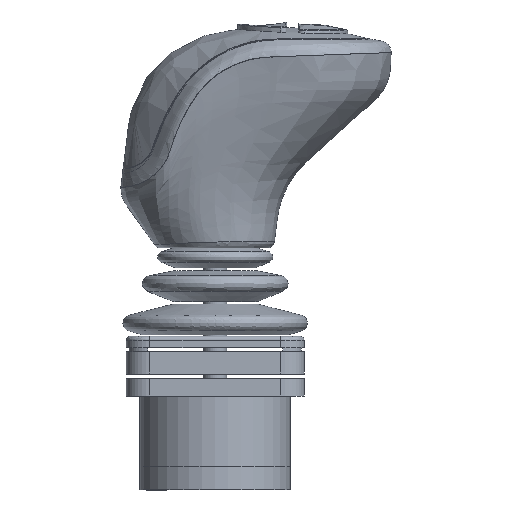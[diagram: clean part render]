
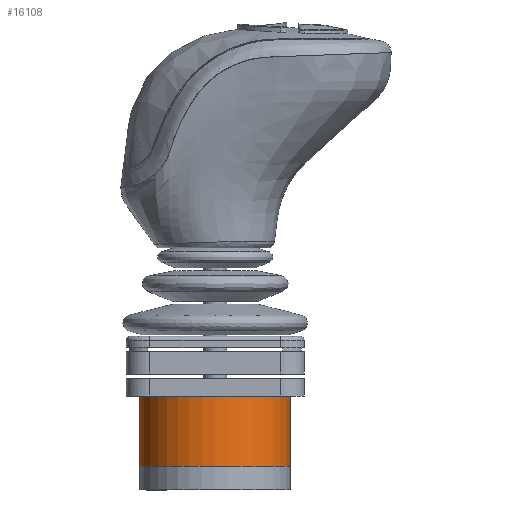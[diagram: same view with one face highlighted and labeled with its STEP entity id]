
A CAD part, left-side view. The second image highlights one B-rep face of the part: STEP entity #16108.
In plain terms, the highlighted cylindrical face has radius 20.447 mm (diameter 40.894 mm), a full revolution.
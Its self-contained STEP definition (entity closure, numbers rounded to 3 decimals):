
#946 = ORIENTED_EDGE ( 'NONE', *, *, #8415, .T. ) ;
#1191 = ORIENTED_EDGE ( 'NONE', *, *, #9755, .T. ) ;
#2491 = AXIS2_PLACEMENT_3D ( 'NONE', #5361, #8774, #21379 ) ;
#4693 = FACE_OUTER_BOUND ( 'NONE', #15438, .T. ) ;
#5361 = CARTESIAN_POINT ( 'NONE',  ( 0., 0., -23.8 ) ) ;
#5948 = DIRECTION ( 'NONE',  ( 0., 0., -1. ) ) ;
#6444 = EDGE_LOOP ( 'NONE', ( #1191 ) ) ;
#7346 = DIRECTION ( 'NONE',  ( 0., 1., 0. ) ) ;
#8415 = EDGE_CURVE ( 'NONE', #12281, #12281, #15808, .T. ) ;
#8774 = DIRECTION ( 'NONE',  ( 0., 0., 1. ) ) ;
#8890 = AXIS2_PLACEMENT_3D ( 'NONE', #17306, #22599, #12001 ) ;
#9755 = EDGE_CURVE ( 'NONE', #15709, #15709, #22035, .T. ) ;
#10451 = CYLINDRICAL_SURFACE ( 'NONE', #8890, 20.447 ) ;
#12001 = DIRECTION ( 'NONE',  ( 0., 1., 0. ) ) ;
#12281 = VERTEX_POINT ( 'NONE', #20687 ) ;
#13535 = AXIS2_PLACEMENT_3D ( 'NONE', #14788, #5948, #7346 ) ;
#14788 = CARTESIAN_POINT ( 'NONE',  ( 0., 0., -4.75 ) ) ;
#15438 = EDGE_LOOP ( 'NONE', ( #946 ) ) ;
#15709 = VERTEX_POINT ( 'NONE', #21115 ) ;
#15808 = CIRCLE ( 'NONE', #13535, 20.447 ) ;
#16108 = ADVANCED_FACE ( 'NONE', ( #4693, #20952 ), #10451, .T. ) ;
#17306 = CARTESIAN_POINT ( 'NONE',  ( 0., 0., -23.8 ) ) ;
#20687 = CARTESIAN_POINT ( 'NONE',  ( 0., 20.447, -4.75 ) ) ;
#20952 = FACE_OUTER_BOUND ( 'NONE', #6444, .T. ) ;
#21115 = CARTESIAN_POINT ( 'NONE',  ( 0., 20.447, -23.8 ) ) ;
#21379 = DIRECTION ( 'NONE',  ( 0., 1., 0. ) ) ;
#22035 = CIRCLE ( 'NONE', #2491, 20.447 ) ;
#22599 = DIRECTION ( 'NONE',  ( 0., 0., 1. ) ) ;
